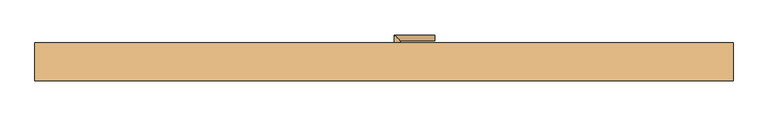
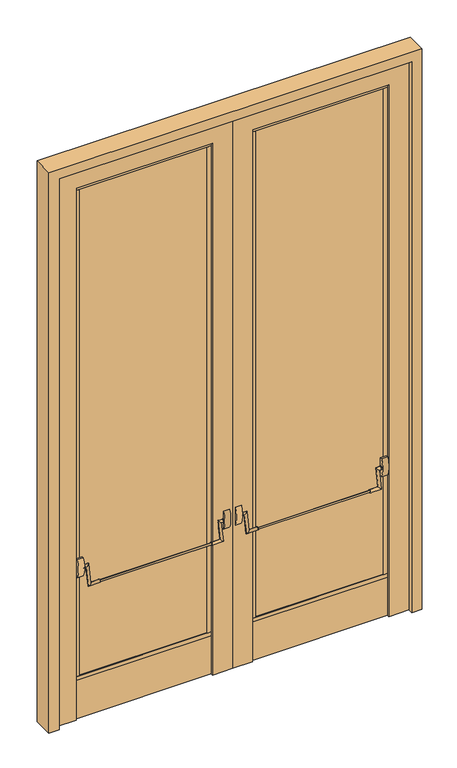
"""IFC4 building model written with IfcOpenShell, lengths in millimetres: door geometry, TRP_CP_ARC_PO_2B_PM : AL_VE_005."""

import ifcopenshell
import ifcopenshell.guid

model = None  # the IFC model being written
_history = None  # IfcOwnerHistory: only IFC2X3 demands one
_inside = {}  # id of a spatial element -> (the spatial element, [elements in it])
_under = {}  # id of a project, library or spatial element -> (it, [spatial elements below it])
_declared = {}  # id of a project -> (the project, [libraries it declares])
_typed = {}  # id of a type object -> (the type object, [elements of that type])
_made_of = {}  # id of a material, layer set ... -> (it, [elements and type objects made of it])


def new_model(schema):
    """Start an empty IFC model of exactly this schema.

    Asked for "IFC4X3", IfcOpenShell would pick the latest addendum, in which some entities
    have other attributes; the version numbers below select the first issue.
    IFC2X3 requires an IfcOwnerHistory on every rooted entity: one is made here for all.
    """
    global model, _history
    if schema == "IFC4X3":
        model = ifcopenshell.file(schema_version=(4, 3, 0, 0))
    else:
        model = ifcopenshell.file(schema=schema)
    _inside.clear()
    _under.clear()
    _declared.clear()
    _typed.clear()
    _made_of.clear()
    _history = None
    if model.schema == "IFC2X3":
        org = make("IfcOrganization", Name="unknown")
        user = make(
            "IfcPersonAndOrganization",
            ThePerson=make("IfcPerson", FamilyName="unknown"),
            TheOrganization=org,
        )
        app = make(
            "IfcApplication",
            ApplicationDeveloper=org,
            Version="unknown",
            ApplicationFullName="unknown",
            ApplicationIdentifier="unknown",
        )
        _history = make(
            "IfcOwnerHistory",
            OwningUser=user,
            OwningApplication=app,
            ChangeAction="ADDED",
            CreationDate=0,
        )
    return model


def make(cls, **values):
    """One entity of the class cls with the attributes given. An attribute that is None is left unset."""
    return model.create_entity(
        cls, **{name: value for name, value in values.items() if value is not None}
    )


def rooted(cls, **values):
    """An entity with a GlobalId (a new one), such as an element, a storey or a relation."""
    return make(cls, GlobalId=ifcopenshell.guid.new(), OwnerHistory=_history, **values)


def si_unit(unit_type, name, prefix=None):
    """IfcSIUnit, for example si_unit("LENGTHUNIT", "METRE", prefix="MILLI")."""
    return make("IfcSIUnit", UnitType=unit_type, Prefix=prefix, Name=name)


def assignment(units):
    """IfcUnitAssignment: the units of a project."""
    return None if units is None else make("IfcUnitAssignment", Units=units)


def point(xyz):
    """IfcCartesianPoint."""
    return None if xyz is None else make("IfcCartesianPoint", Coordinates=xyz)


def direction(xyz):
    """IfcDirection."""
    return None if xyz is None else make("IfcDirection", DirectionRatios=xyz)


def frame(location, z_axis=None, x_axis=None):
    """IfcAxis2Placement3D, a coordinate frame: its origin and axes. An axis left out is left unset."""
    return make(
        "IfcAxis2Placement3D",
        Location=point(location),
        Axis=direction(z_axis),
        RefDirection=direction(x_axis),
    )


def frame_2d(location, x_axis=None):
    """IfcAxis2Placement2D, a coordinate frame in the plane: its origin and x axis."""
    return make(
        "IfcAxis2Placement2D", Location=point(location), RefDirection=direction(x_axis)
    )


def origin():
    """The frame at (0, 0, 0) with its axes left unset."""
    return frame((0.0, 0.0, 0.0))


def origin_with_axes():
    """The frame at (0, 0, 0) with the z axis (0, 0, 1) and the x axis (1, 0, 0) written out."""
    return frame((0.0, 0.0, 0.0), z_axis=(0.0, 0.0, 1.0), x_axis=(1.0, 0.0, 0.0))


def place(relative_to, where):
    """IfcLocalPlacement: puts the frame where relative to a parent placement (None: the world)."""
    return make(
        "IfcLocalPlacement", PlacementRelTo=relative_to, RelativePlacement=where
    )


def context(
    kind, dimensions, precision=None, world=None, true_north=None, identifier=None
):
    """IfcGeometricRepresentationContext, for example the 3D "Model" context."""
    return make(
        "IfcGeometricRepresentationContext",
        ContextIdentifier=identifier,
        ContextType=kind,
        CoordinateSpaceDimension=dimensions,
        Precision=precision,
        WorldCoordinateSystem=world,
        TrueNorth=true_north,
    )


def project(units=None, contexts=None):
    """IfcProject with its units and contexts."""
    return rooted(
        "IfcProject",
        Name="project",
        RepresentationContexts=contexts,
        UnitsInContext=assignment(units),
    )


def spatial(cls, under=None, at=None, **own):
    """A site, building, storey or space (cls), placed at a placement, below another one or the project."""
    s = rooted(cls, ObjectPlacement=at, **own)
    if under is not None:
        _under.setdefault(under.id(), (under, []))[1].append(s)
    return s


def polyline(points):
    """IfcPolyline through the points."""
    return make("IfcPolyline", Points=[point(p) for p in points])


def circle_curve(where, radius):
    """IfcCircle in the frame where."""
    return make("IfcCircle", Position=where, Radius=radius)


def ellipse_curve(where, semi_axis1, semi_axis2):
    """IfcEllipse in the frame where."""
    return make(
        "IfcEllipse", Position=where, SemiAxis1=semi_axis1, SemiAxis2=semi_axis2
    )


def trimmed(basis, trim1, trim2, sense, master):
    """IfcTrimmedCurve: the piece of a basis curve between two trims."""
    return make(
        "IfcTrimmedCurve",
        BasisCurve=basis,
        Trim1=trim1,
        Trim2=trim2,
        SenseAgreement=sense,
        MasterRepresentation=master,
    )


def segment(curve, same_sense, transition):
    """IfcCompositeCurveSegment."""
    return make(
        "IfcCompositeCurveSegment",
        Transition=transition,
        SameSense=same_sense,
        ParentCurve=curve,
    )


def composite_curve(segments, self_intersect=None):
    """IfcCompositeCurve: segments joined end to end."""
    return make("IfcCompositeCurve", Segments=segments, SelfIntersect=self_intersect)


def outline(outer, holes=None, kind="AREA"):
    """IfcArbitraryClosedProfileDef: a profile drawn as a closed curve; with holes, ...WithVoids."""
    if holes is None:
        return make("IfcArbitraryClosedProfileDef", ProfileType=kind, OuterCurve=outer)
    return make(
        "IfcArbitraryProfileDefWithVoids",
        ProfileType=kind,
        OuterCurve=outer,
        InnerCurves=holes,
    )


def extrude(swept, where, along, depth):
    """IfcExtrudedAreaSolid: the profile swept, set in the frame where, extruded along a direction by depth."""
    return make(
        "IfcExtrudedAreaSolid",
        SweptArea=swept,
        Position=where,
        ExtrudedDirection=direction(along),
        Depth=depth,
    )


def shape(context_of_items, identifier, shape_type, items):
    """IfcShapeRepresentation: the items that make up one representation, for example the "Body"."""
    return make(
        "IfcShapeRepresentation",
        ContextOfItems=context_of_items,
        RepresentationIdentifier=identifier,
        RepresentationType=shape_type,
        Items=items,
    )


def source(mapping_origin, context_of_items, identifier, shape_type, items):
    """IfcRepresentationMap: a shape defined once, which mapped items show again and again."""
    return make(
        "IfcRepresentationMap",
        MappingOrigin=mapping_origin,
        MappedRepresentation=shape(context_of_items, identifier, shape_type, items),
    )


def transform(
    local_origin,
    x_axis=None,
    y_axis=None,
    z_axis=None,
    scale=None,
    scale2=None,
    scale3=None,
    uniform=True,
):
    """IfcCartesianTransformationOperator3D, or its non-uniform kind. x_axis, y_axis, z_axis: its Axis1, 2, 3."""
    if uniform:
        return make(
            "IfcCartesianTransformationOperator3D",
            Axis1=direction(x_axis),
            Axis2=direction(y_axis),
            LocalOrigin=point(local_origin),
            Scale=scale,
            Axis3=direction(z_axis),
        )
    return make(
        "IfcCartesianTransformationOperator3DnonUniform",
        Axis1=direction(x_axis),
        Axis2=direction(y_axis),
        LocalOrigin=point(local_origin),
        Scale=scale,
        Axis3=direction(z_axis),
        Scale2=scale2,
        Scale3=scale3,
    )


def mapped(mapping_source, mapping_target):
    """IfcMappedItem: shows the shape of a source again, moved by a transform."""
    return make(
        "IfcMappedItem", MappingSource=mapping_source, MappingTarget=mapping_target
    )


def made_of(thing, what):
    """Note that an element or type object is made of a material, layer set ...; save() writes the relation."""
    if what is not None:
        _made_of.setdefault(what.id(), (what, []))[1].append(thing)
    return thing


def element(
    cls,
    number,
    at=None,
    inside=None,
    cuts=None,
    type_object=None,
    material=None,
    context=None,
    identifier="Body",
    shape_type=None,
    held_by="IfcProductDefinitionShape",
    body=None,
    shapes=None,
    **own,
):
    """One element of the class cls, such as IfcWall. Its Tag is "e" and its number.

    at: its placement. inside: the storey or other place that contains it. cuts: it is an
    opening in that element (IfcRelVoidsElement). A single representation is given by context,
    identifier, shape_type and body (its items); several are given by shapes. held_by: the class
    of the entity that holds the representations. save() writes the other relations.
    """
    e = rooted(cls, Tag="e%d" % number, ObjectPlacement=at, **own)
    if body is not None:
        shapes = [shape(context, identifier, shape_type, body)]
    if shapes is not None:
        e.Representation = make(held_by, Representations=shapes)
    if inside is not None:
        _inside.setdefault(inside.id(), (inside, []))[1].append(e)
    if cuts is not None:
        rooted(
            "IfcRelVoidsElement", RelatingBuildingElement=cuts, RelatedOpeningElement=e
        )
    if type_object is not None:
        _typed.setdefault(type_object.id(), (type_object, []))[1].append(e)
    return made_of(e, material)


def aggregate(whole, parts):
    """IfcRelAggregates: a whole, such as a stair, and the parts it consists of."""
    return rooted("IfcRelAggregates", RelatingObject=whole, RelatedObjects=parts)


def save(model, path):
    """Write the relations noted so far, then the file.

    IfcRelAggregates (storeys below a building ...), IfcRelContainedInSpatialStructure (elements
    in a storey), IfcRelDefinesByType, IfcRelAssociatesMaterial and IfcRelDeclares: one each for
    every whole, place, type object, material and project.
    """
    for whole, parts in _under.values():
        aggregate(whole, parts)
    for where, things in _inside.values():
        rooted(
            "IfcRelContainedInSpatialStructure",
            RelatedElements=things,
            RelatingStructure=where,
        )
    for kind, things in _typed.values():
        rooted("IfcRelDefinesByType", RelatedObjects=things, RelatingType=kind)
    for what, things in _made_of.values():
        rooted("IfcRelAssociatesMaterial", RelatedObjects=things, RelatingMaterial=what)
    for by, libraries in _declared.values():
        rooted("IfcRelDeclares", RelatingContext=by, RelatedDefinitions=libraries)
    model.write(path)


def plane_surface(at):
    """IfcPlane: the flat surface through the origin of the frame at, square to its z axis."""
    return make("IfcPlane", Position=at)


def cylinder_surface(at, radius):
    """IfcCylindricalSurface: all points at the distance radius from the z axis of the frame at."""
    return make("IfcCylindricalSurface", Position=at, Radius=radius)


def advanced_brep(points, edges, surfaces, faces):
    """IfcAdvancedBrep: a solid bounded by faces that lie on surfaces and meet in shared edges.

    An edge is (start, end): straight between two places in points (the first is 0);
    or (start, end, curve); or (start, end, curve, False) where it runs against its curve.
    A face is (place in surfaces, loops), or (place, loops, False) where it looks against
    its surface's normal. A loop lists edges by number (the first is 1), with a minus sign
    where the edge is run from its end to its start. The first loop is the outer one.
    """
    corners = [point(p) for p in points]
    vertices = [make("IfcVertexPoint", VertexGeometry=c) for c in corners]
    made = []
    for start, end, *more in edges:
        made.append(
            make(
                "IfcEdgeCurve",
                EdgeStart=vertices[start],
                EdgeEnd=vertices[end],
                EdgeGeometry=more[0] if more else make("IfcPolyline", Points=[corners[start], corners[end]]),
                SameSense=more[1] if len(more) > 1 else True,
            )
        )
    hull = []
    for where, loops, *sense in faces:
        bounds = []
        for j, loop in enumerate(loops):
            ring = [make("IfcOrientedEdge", EdgeElement=made[abs(k) - 1], Orientation=k > 0) for k in loop]
            bounds.append(
                make(
                    "IfcFaceOuterBound" if j == 0 else "IfcFaceBound",
                    Bound=make("IfcEdgeLoop", EdgeList=ring),
                    Orientation=True,
                )
            )
        hull.append(make("IfcAdvancedFace", Bounds=bounds, FaceSurface=surfaces[where], SameSense=sense[0] if sense else True))
    return make("IfcAdvancedBrep", Outer=make("IfcClosedShell", CfsFaces=hull))


def door_f6d3ca97(model_context):
    return source(origin(), model_context, "Body", "SolidModel", [
        advanced_brep(
        [(42.5, 35.0, 999.3149536), (27.5, 35.0, 999.3149536), (27.5, 70.8278773, 999.3149536), (42.5, 55.8278773, 999.3149536), (135.0, 55.8278773, 999.3149536), (135.0, 70.8278773, 999.3149536)],
        [
            (0, 1, circle_curve(frame((35.0, 35.0, 999.3149536), z_axis=(0.0, -1.0, 0.0), x_axis=(-1.0, 0.0, 0.0)), 7.5)),
            (1, 0, circle_curve(frame((35.0, 35.0, 999.3149536), z_axis=(0.0, -1.0, 0.0), x_axis=(-1.0, 0.0, 0.0)), 7.5)),
            (1, 2),
            (2, 3, ellipse_curve(frame((35.0, 63.3278773, 999.3149536), z_axis=(-0.7071067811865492, -0.7071067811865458, 0.0), x_axis=(0.7071067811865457, -0.7071067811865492, 0.0)), 10.6066017, 7.5)),
            (3, 0),
            (3, 2, ellipse_curve(frame((35.0, 63.3278773, 999.3149536), z_axis=(-0.7071067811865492, -0.7071067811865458, 0.0), x_axis=(0.7071067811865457, -0.7071067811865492, 0.0)), 10.6066017, 7.5)),
            (4, 5, circle_curve(frame((135.0, 63.3278773, 999.3149536), z_axis=(1.0, 0.0, 0.0), x_axis=(0.0, 1.0, 0.0)), 7.5)),
            (5, 4, circle_curve(frame((135.0, 63.3278773, 999.3149536), z_axis=(1.0, 0.0, 0.0), x_axis=(0.0, 1.0, 0.0)), 7.5)),
            (2, 5),
            (4, 3),
        ],
        [
            plane_surface(frame((35.0, 35.0, 999.3149536), z_axis=(0.0, -1.0, 0.0), x_axis=(0.0, 0.0, -1.0))),
            cylinder_surface(frame((35.0, 35.0, 999.3149536), z_axis=(0.0, -1.0, 0.0), x_axis=(-1.0, 0.0, 0.0)), 7.5),
            plane_surface(frame((135.0, 63.3278773, 999.3149536), z_axis=(1.0, 0.0, 0.0), x_axis=(0.0, 0.0, -1.0))),
            cylinder_surface(frame((35.0, 63.3278773, 999.3149536), z_axis=(-1.0, 0.0, 0.0), x_axis=(0.0, 1.0, 0.0)), 7.5),
        ],
        [
            (0, [[1, 2]]),
            (1, [[3, 4, 5, -2]]),
            (1, [[-5, 6, -3, -1]]),
            (2, [[7, 8]]),
            (3, [[9, -7, 10, -4]]),
            (3, [[-10, -8, -9, -6]]),
        ],
    ),
        extrude(outline(composite_curve([segment(trimmed(circle_curve(frame_2d((979.3149536, 35.0)), 20.0), [point((979.3149536, 15.0))], [point((979.3149536, 55.0))], False, "CARTESIAN"), True, "CONTINUOUS"), segment(polyline([(979.3149536, 55.0), (1019.3149536, 55.0)]), True, "CONTINUOUS"), segment(trimmed(circle_curve(frame_2d((1019.3149536, 35.0)), 20.0), [point((1019.3149536, 55.0))], [point((1019.3149536, 15.0))], False, "CARTESIAN"), True, "CONTINUOUS"), segment(polyline([(1019.3149536, 15.0), (979.3149536, 15.0)]), True, "CONTINUOUS")], self_intersect=False)), frame((0.0, 25.0, 0.0), z_axis=(0.0, 1.0, 0.0), x_axis=(0.0, 0.0, 1.0)), (0.0, 0.0, 1.0), 10.0),
        extrude(outline(composite_curve([segment(trimmed(circle_curve(frame_2d((-42.7909535, 704.1255149)), 4.0), [point((-42.7909535, 700.1255149))], [point((-42.7909535, 708.1255149))], False, "CARTESIAN"), True, "CONTINUOUS"), segment(trimmed(circle_curve(frame_2d((-42.7909535, 704.1255149)), 4.0), [point((-42.7909535, 708.1255149))], [point((-42.7909535, 700.1255149))], False, "CARTESIAN"), True, "CONTINUOUS")], self_intersect=False)), frame((114.355148, 0.0, 0.0), z_axis=(1.0, 0.0, 0.0), x_axis=(0.0, 1.0, 0.0)), (0.0, 0.0, 1.0), 555.644852),
        advanced_brep(
        [(49.355148, -22.2081415, 798.9003665), (49.355148, -25.137835, 785.2103374), (71.355148, -22.2081415, 798.9003665), (57.355148, -25.137835, 785.2103374), (71.355148, -41.0418854, 710.8930367), (57.355148, -43.9715789, 697.2030077), (114.355148, -41.0418854, 710.8930367), (114.355148, -43.9715789, 697.2030077)],
        [
            (0, 1, circle_curve(frame((49.355148, -23.6729883, 792.055352), z_axis=(-1.0, 0.0, 0.0), x_axis=(0.0, -0.20926382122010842, -0.9778592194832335)), 7.0)),
            (1, 0, circle_curve(frame((49.355148, -23.6729883, 792.055352), z_axis=(-1.0, 0.0, 0.0), x_axis=(0.0, -0.20926382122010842, -0.9778592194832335)), 7.0)),
            (0, 2),
            (2, 3, ellipse_curve(frame((64.355148, -23.6729883, 792.055352), z_axis=(-0.7071067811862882, 0.14797186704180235, 0.6914508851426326), x_axis=(-0.7071067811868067, -0.14797186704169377, -0.6914508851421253)), 9.8994949, 7.0)),
            (3, 1),
            (3, 2, ellipse_curve(frame((64.355148, -23.6729883, 792.055352), z_axis=(-0.7071067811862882, 0.14797186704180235, 0.6914508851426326), x_axis=(-0.7071067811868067, -0.14797186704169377, -0.6914508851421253)), 9.8994949, 7.0)),
            (2, 4),
            (4, 5, ellipse_curve(frame((64.355148, -42.5067322, 704.0480222), z_axis=(-0.7071067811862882, 0.1479718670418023, 0.6914508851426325), x_axis=(0.707106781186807, 0.14797186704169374, 0.6914508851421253)), 9.8994949, 7.0)),
            (5, 3),
            (5, 4, ellipse_curve(frame((64.355148, -42.5067322, 704.0480222), z_axis=(-0.7071067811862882, 0.1479718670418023, 0.6914508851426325), x_axis=(0.707106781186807, 0.14797186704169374, 0.6914508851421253)), 9.8994949, 7.0)),
            (6, 7, circle_curve(frame((114.355148, -42.5067322, 704.0480222), z_axis=(1.0, 0.0, 0.0), x_axis=(0.0, -0.2092638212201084, -0.9778592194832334)), 7.0)),
            (7, 6, circle_curve(frame((114.355148, -42.5067322, 704.0480222), z_axis=(1.0, 0.0, 0.0), x_axis=(0.0, -0.2092638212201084, -0.9778592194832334)), 7.0)),
            (4, 6),
            (7, 5),
        ],
        [
            plane_surface(frame((49.355148, 4.3595447, 786.056334), z_axis=(-1.0, 0.0, 0.0), x_axis=(0.0, -0.9778592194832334, 0.20926382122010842))),
            cylinder_surface(frame((49.355148, -23.6729883, 792.055352), z_axis=(-1.0000000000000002, 0.0, 0.0), x_axis=(0.0, -0.20926382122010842, -0.9778592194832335)), 7.0),
            cylinder_surface(frame((64.355148, -23.6729883, 792.055352), z_axis=(0.0, 0.20926382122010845, 0.9778592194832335), x_axis=(-1.0, 0.0, 0.0)), 7.0),
            plane_surface(frame((114.355148, -14.4741992, 698.0490043), z_axis=(1.0, 0.0, 0.0), x_axis=(0.0, -0.9778592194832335, 0.2092638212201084))),
            cylinder_surface(frame((64.355148, -42.5067322, 704.0480222), z_axis=(-1.0, 0.0, 0.0), x_axis=(0.0, -0.2092638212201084, -0.9778592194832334)), 7.0),
        ],
        [
            (0, [[1, 2]]),
            (1, [[3, 4, 5, -1]]),
            (1, [[-5, 6, -3, -2]]),
            (2, [[7, 8, 9, -4]]),
            (2, [[-9, 10, -7, -6]]),
            (3, [[11, 12]]),
            (4, [[13, -12, 14, -8]]),
            (4, [[-14, -11, -13, -10]]),
        ],
    ),
        advanced_brep(
        [(735.0, -25.137835, 785.2103374), (735.0, -22.2081415, 798.9003665), (713.0, -22.2081415, 798.9003665), (727.0, -25.137835, 785.2103374), (713.0, -41.0418854, 710.8930367), (727.0, -43.9715789, 697.2030077), (670.0, -43.9715789, 697.2030077), (670.0, -41.0418854, 710.8930367)],
        [
            (0, 1, circle_curve(frame((735.0, -23.6729883, 792.055352), z_axis=(1.0, 0.0, 0.0), x_axis=(0.0, 0.20926382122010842, 0.9778592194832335)), 7.0)),
            (1, 0, circle_curve(frame((735.0, -23.6729883, 792.055352), z_axis=(1.0, 0.0, 0.0), x_axis=(0.0, 0.20926382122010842, 0.9778592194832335)), 7.0)),
            (1, 2),
            (2, 3, ellipse_curve(frame((720.0, -23.6729883, 792.055352), z_axis=(0.707106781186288, 0.14797186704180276, 0.6914508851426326), x_axis=(0.7071067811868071, -0.14797186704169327, -0.6914508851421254)), 9.8994949, 7.0)),
            (3, 0),
            (3, 2, ellipse_curve(frame((720.0, -23.6729883, 792.055352), z_axis=(0.707106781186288, 0.14797186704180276, 0.6914508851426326), x_axis=(0.7071067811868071, -0.14797186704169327, -0.6914508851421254)), 9.8994949, 7.0)),
            (2, 4),
            (4, 5, ellipse_curve(frame((720.0, -42.5067322, 704.0480222), z_axis=(0.707106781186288, 0.14797186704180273, 0.6914508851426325), x_axis=(-0.7071067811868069, 0.1479718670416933, 0.6914508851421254)), 9.8994949, 7.0)),
            (5, 3),
            (5, 4, ellipse_curve(frame((720.0, -42.5067322, 704.0480222), z_axis=(0.707106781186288, 0.14797186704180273, 0.6914508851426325), x_axis=(-0.7071067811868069, 0.1479718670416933, 0.6914508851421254)), 9.8994949, 7.0)),
            (6, 7, circle_curve(frame((670.0, -42.5067322, 704.0480222), z_axis=(-1.0, 0.0, 0.0), x_axis=(0.0, 0.20926382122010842, 0.9778592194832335)), 7.0)),
            (7, 6, circle_curve(frame((670.0, -42.5067322, 704.0480222), z_axis=(-1.0, 0.0, 0.0), x_axis=(0.0, 0.20926382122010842, 0.9778592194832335)), 7.0)),
            (4, 7),
            (6, 5),
        ],
        [
            plane_surface(frame((735.0, 4.3595447, 786.056334), z_axis=(1.0000000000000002, 0.0, 0.0), x_axis=(0.0, -0.9778592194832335, 0.20926382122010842))),
            cylinder_surface(frame((735.0, -23.6729883, 792.055352), z_axis=(1.0000000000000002, 0.0, 0.0), x_axis=(0.0, 0.20926382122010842, 0.9778592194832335)), 7.0),
            cylinder_surface(frame((720.0, -23.6729883, 792.055352), z_axis=(0.0, 0.20926382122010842, 0.9778592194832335), x_axis=(-1.0, 0.0, 0.0)), 7.0),
            plane_surface(frame((670.0, -14.4741992, 698.0490043), z_axis=(-1.0000000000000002, 0.0, 0.0), x_axis=(0.0, -0.9778592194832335, 0.20926382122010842))),
            cylinder_surface(frame((720.0, -42.5067322, 704.0480222), z_axis=(1.0000000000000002, 0.0, 0.0), x_axis=(0.0, 0.20926382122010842, 0.9778592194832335)), 7.0),
        ],
        [
            (0, [[1, 2]]),
            (1, [[3, 4, 5, -2]]),
            (1, [[-5, 6, -3, -1]]),
            (2, [[7, 8, 9, -4]]),
            (2, [[-9, 10, -7, -6]]),
            (3, [[11, 12]]),
            (4, [[13, -11, 14, -8]]),
            (4, [[-14, -12, -13, -10]]),
        ],
    ),
        extrude(outline(composite_curve([segment(trimmed(circle_curve(frame_2d((-23.7850211, 792.0)), 7.9999872), [point((-23.7850211, 799.9999872))], [point((-23.7850211, 784.0000128))], False, "CARTESIAN"), True, "CONTINUOUS"), segment(trimmed(circle_curve(frame_2d((-23.7850211, 792.0)), 7.9999872), [point((-23.7850211, 784.0000128))], [point((-23.7850211, 799.9999872))], False, "CARTESIAN"), True, "CONTINUOUS")], self_intersect=False)), frame((44.355148, 0.0, 0.0), z_axis=(1.0, 0.0, 0.0), x_axis=(0.0, 1.0, 0.0)), (0.0, 0.0, 1.0), 5.0),
        extrude(outline(composite_curve([segment(trimmed(circle_curve(frame_2d((-23.7993127, 792.0)), 8.0), [point((-23.7993127, 784.0))], [point((-23.7993127, 800.0))], False, "CARTESIAN"), True, "CONTINUOUS"), segment(trimmed(circle_curve(frame_2d((-23.7993127, 792.0)), 8.0), [point((-23.7993127, 800.0))], [point((-23.7993127, 784.0))], False, "CARTESIAN"), True, "CONTINUOUS")], self_intersect=False)), frame((735.0, 0.0, 0.0), z_axis=(1.0, 0.0, 0.0), x_axis=(0.0, 1.0, 0.0)), (0.0, 0.0, 1.0), 5.0),
        extrude(outline(composite_curve([segment(polyline([(-25.0, 838.5217978), (-15.0, 838.5217978), (-15.0, 745.4782022), (-25.0, 745.4782022)]), True, "CONTINUOUS"), segment(trimmed(circle_curve(frame_2d((78.1832138, 792.0)), 113.1859235), [point((-25.0, 745.4782022))], [point((-25.0, 838.5217978))], False, "CARTESIAN"), True, "CONTINUOUS")], self_intersect=False)), frame((740.0, 0.0, 0.0), z_axis=(1.0, 0.0, 0.0), x_axis=(0.0, 1.0, 0.0)), (0.0, 0.0, 1.0), 30.0),
        extrude(outline(composite_curve([segment(polyline([(-25.0, 838.5217978), (-15.0, 838.5217978), (-15.0, 745.4782022), (-25.0, 745.4782022)]), True, "CONTINUOUS"), segment(trimmed(circle_curve(frame_2d((78.1832138, 792.0)), 113.1859235), [point((-25.0, 745.4782022))], [point((-25.0, 838.5217978))], False, "CARTESIAN"), True, "CONTINUOUS")], self_intersect=False)), frame((14.355148, 0.0, 0.0), z_axis=(1.0, 0.0, 0.0), x_axis=(0.0, 1.0, 0.0)), (0.0, 0.0, 1.0), 30.0),
        extrude(outline(composite_curve([segment(trimmed(circle_curve(frame_2d((-42.7909535, 704.1255149)), 4.0), [point((-42.7909535, 700.1255149))], [point((-42.7909535, 708.1255149))], False, "CARTESIAN"), True, "CONTINUOUS"), segment(trimmed(circle_curve(frame_2d((-42.7909535, 704.1255149)), 4.0), [point((-42.7909535, 708.1255149))], [point((-42.7909535, 700.1255149))], False, "CARTESIAN"), True, "CONTINUOUS")], self_intersect=False)), frame((-670.0, 0.0, 0.0), z_axis=(1.0, 0.0, 0.0), x_axis=(0.0, 1.0, 0.0)), (0.0, 0.0, 1.0), 555.644852),
        advanced_brep(
        [(-49.355148, -22.2081415, 798.9003665), (-49.355148, -25.137835, 785.2103374), (-57.355148, -25.137835, 785.2103374), (-71.355148, -22.2081415, 798.9003665), (-57.355148, -43.9715789, 697.2030077), (-71.355148, -41.0418854, 710.8930367), (-114.355148, -41.0418854, 710.8930367), (-114.355148, -43.9715789, 697.2030077)],
        [
            (0, 1, circle_curve(frame((-49.355148, -23.6729883, 792.055352), z_axis=(1.0, 0.0, 0.0), x_axis=(0.0, -0.20926382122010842, -0.9778592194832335)), 7.0)),
            (1, 0, circle_curve(frame((-49.355148, -23.6729883, 792.055352), z_axis=(1.0, 0.0, 0.0), x_axis=(0.0, -0.20926382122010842, -0.9778592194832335)), 7.0)),
            (1, 2),
            (2, 3, ellipse_curve(frame((-64.355148, -23.6729883, 792.055352), z_axis=(0.7071067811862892, 0.14797186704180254, 0.6914508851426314), x_axis=(0.7071067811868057, -0.14797186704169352, -0.6914508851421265)), 9.8994949, 7.0)),
            (3, 0),
            (3, 2, ellipse_curve(frame((-64.355148, -23.6729883, 792.055352), z_axis=(0.7071067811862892, 0.14797186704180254, 0.6914508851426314), x_axis=(0.7071067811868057, -0.14797186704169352, -0.6914508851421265)), 9.8994949, 7.0)),
            (2, 4),
            (4, 5, ellipse_curve(frame((-64.355148, -42.5067322, 704.0480222), z_axis=(0.7071067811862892, 0.1479718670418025, 0.6914508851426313), x_axis=(-0.7071067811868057, 0.14797186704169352, 0.6914508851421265)), 9.8994949, 7.0)),
            (5, 3),
            (5, 4, ellipse_curve(frame((-64.355148, -42.5067322, 704.0480222), z_axis=(0.7071067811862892, 0.1479718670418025, 0.6914508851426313), x_axis=(-0.7071067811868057, 0.14797186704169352, 0.6914508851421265)), 9.8994949, 7.0)),
            (6, 7, circle_curve(frame((-114.355148, -42.5067322, 704.0480222), z_axis=(-1.0, 0.0, 0.0), x_axis=(0.0, -0.2092638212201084, -0.9778592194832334)), 7.0)),
            (7, 6, circle_curve(frame((-114.355148, -42.5067322, 704.0480222), z_axis=(-1.0, 0.0, 0.0), x_axis=(0.0, -0.2092638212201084, -0.9778592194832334)), 7.0)),
            (4, 7),
            (6, 5),
        ],
        [
            plane_surface(frame((-49.355148, 4.3595447, 786.056334), z_axis=(1.0, 0.0, 0.0), x_axis=(0.0, -0.9778592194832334, 0.20926382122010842))),
            cylinder_surface(frame((-49.355148, -23.6729883, 792.055352), z_axis=(1.0000000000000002, 0.0, 0.0), x_axis=(0.0, -0.20926382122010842, -0.9778592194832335)), 7.0),
            cylinder_surface(frame((-64.355148, -23.6729883, 792.055352), z_axis=(0.0, 0.20926382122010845, 0.9778592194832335), x_axis=(1.0, 0.0, 0.0)), 7.0),
            plane_surface(frame((-114.355148, -14.4741992, 698.0490043), z_axis=(-1.0, 0.0, 0.0), x_axis=(0.0, -0.9778592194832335, 0.2092638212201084))),
            cylinder_surface(frame((-64.355148, -42.5067322, 704.0480222), z_axis=(1.0, 0.0, 0.0), x_axis=(0.0, -0.2092638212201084, -0.9778592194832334)), 7.0),
        ],
        [
            (0, [[1, 2]]),
            (1, [[-2, 3, 4, 5]]),
            (1, [[-1, -5, 6, -3]]),
            (2, [[-4, 7, 8, 9]]),
            (2, [[-6, -9, 10, -7]]),
            (3, [[11, 12]]),
            (4, [[-8, 13, -11, 14]]),
            (4, [[-10, -14, -12, -13]]),
        ],
    ),
        advanced_brep(
        [(-735.0, -25.137835, 785.2103374), (-735.0, -22.2081415, 798.9003665), (-727.0, -25.137835, 785.2103374), (-713.0, -22.2081415, 798.9003665), (-727.0, -43.9715789, 697.2030077), (-713.0, -41.0418854, 710.8930367), (-670.0, -43.9715789, 697.2030077), (-670.0, -41.0418854, 710.8930367)],
        [
            (0, 1, circle_curve(frame((-735.0, -23.6729883, 792.055352), z_axis=(-1.0, 0.0, 0.0), x_axis=(0.0, 0.20926382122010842, 0.9778592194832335)), 7.0)),
            (1, 0, circle_curve(frame((-735.0, -23.6729883, 792.055352), z_axis=(-1.0, 0.0, 0.0), x_axis=(0.0, 0.20926382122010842, 0.9778592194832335)), 7.0)),
            (0, 2),
            (2, 3, ellipse_curve(frame((-720.0, -23.6729883, 792.055352), z_axis=(-0.7071067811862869, 0.14797186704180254, 0.6914508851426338), x_axis=(-0.7071067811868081, -0.14797186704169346, -0.6914508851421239)), 9.8994949, 7.0)),
            (3, 1),
            (3, 2, ellipse_curve(frame((-720.0, -23.6729883, 792.055352), z_axis=(-0.7071067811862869, 0.14797186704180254, 0.6914508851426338), x_axis=(-0.7071067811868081, -0.14797186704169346, -0.6914508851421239)), 9.8994949, 7.0)),
            (2, 4),
            (4, 5, ellipse_curve(frame((-720.0, -42.5067322, 704.0480222), z_axis=(-0.7071067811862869, 0.14797186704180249, 0.6914508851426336), x_axis=(0.7071067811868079, 0.14797186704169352, 0.6914508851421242)), 9.8994949, 7.0)),
            (5, 3),
            (5, 4, ellipse_curve(frame((-720.0, -42.5067322, 704.0480222), z_axis=(-0.7071067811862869, 0.14797186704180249, 0.6914508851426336), x_axis=(0.7071067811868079, 0.14797186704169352, 0.6914508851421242)), 9.8994949, 7.0)),
            (6, 7, circle_curve(frame((-670.0, -42.5067322, 704.0480222), z_axis=(1.0, 0.0, 0.0), x_axis=(0.0, 0.20926382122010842, 0.9778592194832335)), 7.0)),
            (7, 6, circle_curve(frame((-670.0, -42.5067322, 704.0480222), z_axis=(1.0, 0.0, 0.0), x_axis=(0.0, 0.20926382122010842, 0.9778592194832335)), 7.0)),
            (4, 6),
            (7, 5),
        ],
        [
            plane_surface(frame((-735.0, 4.3595447, 786.056334), z_axis=(-1.0000000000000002, 0.0, 0.0), x_axis=(0.0, -0.9778592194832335, 0.20926382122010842))),
            cylinder_surface(frame((-735.0, -23.6729883, 792.055352), z_axis=(-1.0000000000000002, 0.0, 0.0), x_axis=(0.0, 0.20926382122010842, 0.9778592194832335)), 7.0),
            cylinder_surface(frame((-720.0, -23.6729883, 792.055352), z_axis=(0.0, 0.20926382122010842, 0.9778592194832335), x_axis=(1.0, 0.0, 0.0)), 7.0),
            plane_surface(frame((-670.0, -14.4741992, 698.0490043), z_axis=(1.0000000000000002, 0.0, 0.0), x_axis=(0.0, -0.9778592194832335, 0.20926382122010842))),
            cylinder_surface(frame((-720.0, -42.5067322, 704.0480222), z_axis=(-1.0000000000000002, 0.0, 0.0), x_axis=(0.0, 0.20926382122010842, 0.9778592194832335)), 7.0),
        ],
        [
            (0, [[1, 2]]),
            (1, [[-1, 3, 4, 5]]),
            (1, [[-2, -5, 6, -3]]),
            (2, [[-4, 7, 8, 9]]),
            (2, [[-6, -9, 10, -7]]),
            (3, [[11, 12]]),
            (4, [[-8, 13, -12, 14]]),
            (4, [[-10, -14, -11, -13]]),
        ],
    ),
        extrude(outline(composite_curve([segment(trimmed(circle_curve(frame_2d((-23.7850211, 792.0)), 7.9999872), [point((-23.7850211, 799.9999872))], [point((-23.7850211, 784.0000128))], False, "CARTESIAN"), True, "CONTINUOUS"), segment(trimmed(circle_curve(frame_2d((-23.7850211, 792.0)), 7.9999872), [point((-23.7850211, 784.0000128))], [point((-23.7850211, 799.9999872))], False, "CARTESIAN"), True, "CONTINUOUS")], self_intersect=False)), frame((-49.355148, 0.0, 0.0), z_axis=(1.0, 0.0, 0.0), x_axis=(0.0, 1.0, 0.0)), (0.0, 0.0, 1.0), 5.0),
        extrude(outline(composite_curve([segment(trimmed(circle_curve(frame_2d((-23.7993127, 792.0)), 8.0), [point((-23.7993127, 784.0))], [point((-23.7993127, 800.0))], False, "CARTESIAN"), True, "CONTINUOUS"), segment(trimmed(circle_curve(frame_2d((-23.7993127, 792.0)), 8.0), [point((-23.7993127, 800.0))], [point((-23.7993127, 784.0))], False, "CARTESIAN"), True, "CONTINUOUS")], self_intersect=False)), frame((-740.0, 0.0, 0.0), z_axis=(1.0, 0.0, 0.0), x_axis=(0.0, 1.0, 0.0)), (0.0, 0.0, 1.0), 5.0),
        extrude(outline(composite_curve([segment(polyline([(-25.0, 838.5217978), (-15.0, 838.5217978), (-15.0, 745.4782022), (-25.0, 745.4782022)]), True, "CONTINUOUS"), segment(trimmed(circle_curve(frame_2d((78.1832138, 792.0)), 113.1859235), [point((-25.0, 745.4782022))], [point((-25.0, 838.5217978))], False, "CARTESIAN"), True, "CONTINUOUS")], self_intersect=False)), frame((-770.0, 0.0, 0.0), z_axis=(1.0, 0.0, 0.0), x_axis=(0.0, 1.0, 0.0)), (0.0, 0.0, 1.0), 30.0),
        extrude(outline(composite_curve([segment(polyline([(-25.0, 838.5217978), (-15.0, 838.5217978), (-15.0, 745.4782022), (-25.0, 745.4782022)]), True, "CONTINUOUS"), segment(trimmed(circle_curve(frame_2d((78.1832138, 792.0)), 113.1859235), [point((-25.0, 745.4782022))], [point((-25.0, 838.5217978))], False, "CARTESIAN"), True, "CONTINUOUS")], self_intersect=False)), frame((-44.355148, 0.0, 0.0), z_axis=(1.0, 0.0, 0.0), x_axis=(0.0, 1.0, 0.0)), (0.0, 0.0, 1.0), 30.0),
        extrude(outline(polyline([(-120.0, -10.0), (-755.0, -10.0), (-755.0, 10.0), (-120.0, 10.0), (-120.0, -10.0)])), frame((0.0, 0.0, 220.0), z_axis=(0.0, 0.0, 1.0), x_axis=(1.0, 0.0, 0.0)), (0.0, 0.0, 1.0), 2547.0),
        extrude(outline(polyline([(-755.0, -15.0), (-775.0, -15.0), (-775.0, 15.0), (-755.0, 15.0), (-755.0, -15.0)])), frame((0.0, 0.0, 220.0), z_axis=(0.0, 0.0, 1.0), x_axis=(1.0, 0.0, 0.0)), (0.0, 0.0, 1.0), 2547.0),
        extrude(outline(polyline([(-100.0, -15.0), (-120.0, -15.0), (-120.0, 15.0), (-100.0, 15.0), (-100.0, -15.0)])), frame((0.0, 0.0, 220.0), z_axis=(0.0, 0.0, 1.0), x_axis=(1.0, 0.0, 0.0)), (0.0, 0.0, 1.0), 2547.0),
        extrude(outline(polyline([(0.0, -100.0), (0.0, 0.0), (2887.0, 0.0), (2887.0, -875.0), (0.0, -875.0), (0.0, -775.0), (2787.0, -775.0), (2787.0, -100.0), (0.0, -100.0)])), frame((0.0, -25.0, 0.0), z_axis=(0.0, 1.0, 0.0), x_axis=(0.0, 0.0, 1.0)), (0.0, 0.0, 1.0), 50.0),
        extrude(outline(polyline([(755.0, -10.0), (120.0, -10.0), (120.0, 10.0), (755.0, 10.0), (755.0, -10.0)])), frame((0.0, 0.0, 220.0), z_axis=(0.0, 0.0, 1.0), x_axis=(1.0, 0.0, 0.0)), (0.0, 0.0, 1.0), 2547.0),
        extrude(outline(polyline([(120.0, -15.0), (100.0, -15.0), (100.0, 15.0), (120.0, 15.0), (120.0, -15.0)])), frame((0.0, 0.0, 220.0), z_axis=(0.0, 0.0, 1.0), x_axis=(1.0, 0.0, 0.0)), (0.0, 0.0, 1.0), 2547.0),
        extrude(outline(polyline([(775.0, -15.0), (755.0, -15.0), (755.0, 15.0), (775.0, 15.0), (775.0, -15.0)])), frame((0.0, 0.0, 220.0), z_axis=(0.0, 0.0, 1.0), x_axis=(1.0, 0.0, 0.0)), (0.0, 0.0, 1.0), 2547.0),
        extrude(outline(polyline([(0.0, 775.0), (0.0, 875.0), (2887.0, 875.0), (2887.0, 0.0), (0.0, 0.0), (0.0, 100.0), (2787.0, 100.0), (2787.0, 775.0), (0.0, 775.0)])), frame((0.0, -25.0, 0.0), z_axis=(0.0, 1.0, 0.0), x_axis=(0.0, 0.0, 1.0)), (0.0, 0.0, 1.0), 50.0),
        extrude(outline(polyline([(0.0, 875.0), (0.0, 925.0), (2937.0, 925.0), (2937.0, -925.0), (0.0, -925.0), (0.0, -875.0), (2887.0, -875.0), (2887.0, 875.0), (0.0, 875.0)])), frame((0.0, -50.0, 0.0), z_axis=(0.0, 1.0, 0.0), x_axis=(0.0, 0.0, 1.0)), (0.0, 0.0, 1.0), 100.0),
        extrude(outline(polyline([(-100.0, -15.0), (-775.0, -15.0), (-775.0, 15.0), (-100.0, 15.0), (-100.0, -15.0)])), frame((0.0, 0.0, 200.0), z_axis=(0.0, 0.0, 1.0), x_axis=(1.0, 0.0, 0.0)), (0.0, 0.0, 1.0), 20.0),
        extrude(outline(polyline([(-100.0, -15.0), (-775.0, -15.0), (-775.0, 15.0), (-100.0, 15.0), (-100.0, -15.0)])), frame((0.0, 0.0, 2767.0), z_axis=(0.0, 0.0, 1.0), x_axis=(1.0, 0.0, 0.0)), (0.0, 0.0, 1.0), 20.0),
        extrude(outline(polyline([(-100.0, -15.0), (-775.0, -15.0), (-775.0, 15.0), (-100.0, 15.0), (-100.0, -15.0)])), origin_with_axes(), (0.0, 0.0, 1.0), 200.0),
        extrude(outline(polyline([(775.0, -15.0), (100.0, -15.0), (100.0, 15.0), (775.0, 15.0), (775.0, -15.0)])), frame((0.0, 0.0, 2767.0), z_axis=(0.0, 0.0, 1.0), x_axis=(1.0, 0.0, 0.0)), (0.0, 0.0, 1.0), 20.0),
        extrude(outline(polyline([(775.0, -15.0), (100.0, -15.0), (100.0, 15.0), (775.0, 15.0), (775.0, -15.0)])), frame((0.0, 0.0, 200.0), z_axis=(0.0, 0.0, 1.0), x_axis=(1.0, 0.0, 0.0)), (0.0, 0.0, 1.0), 20.0),
        extrude(outline(polyline([(775.0, -15.0), (100.0, -15.0), (100.0, 15.0), (775.0, 15.0), (775.0, -15.0)])), origin_with_axes(), (0.0, 0.0, 1.0), 200.0),
    ])


if __name__ == "__main__":
    model = new_model("IFC4")
    model_context = context("Model", 3, world=origin())
    ifc_project = project(units=[si_unit("LENGTHUNIT", "METRE", prefix="MILLI")], contexts=[model_context])
    site = spatial("IfcSite", under=ifc_project)
    building = spatial("IfcBuilding", under=site)
    placement = place(None, origin())
    door_shape = door_f6d3ca97(model_context)
    element("IfcDoor", 1, ObjectType="TRP_CP_ARC_PO_2B_PM : AL_VE_005", at=placement, inside=building, context=model_context, shape_type="MappedRepresentation", body=[
        mapped(door_shape, transform((0.0, 0.0, 0.0), x_axis=(1.0, 0.0, 0.0), y_axis=(0.0, 1.0, 0.0), z_axis=(0.0, 0.0, 1.0))),
    ])
    save(model, "model.ifc")
